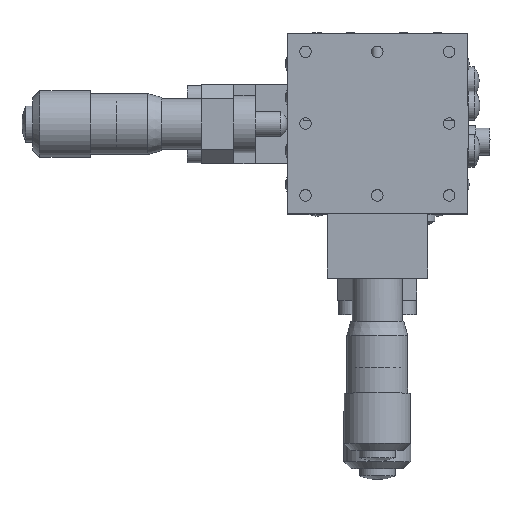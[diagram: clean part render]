
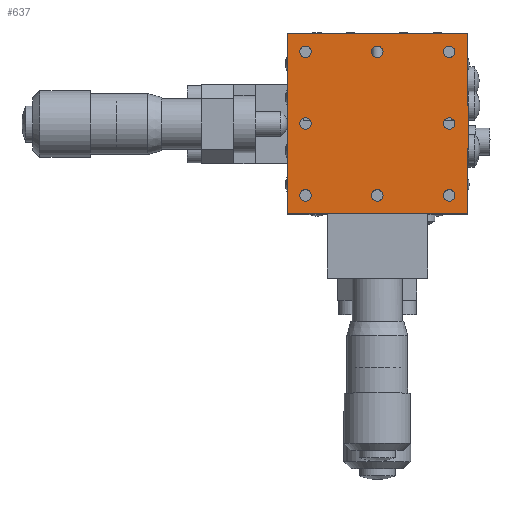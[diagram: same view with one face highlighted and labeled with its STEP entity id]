
A CAD part, top view. The second image highlights one B-rep face of the part: STEP entity #637.
In plain terms, the highlighted planar face has unit normal (0, 0, 1).
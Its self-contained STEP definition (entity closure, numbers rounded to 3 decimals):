
#637 = ADVANCED_FACE( '', ( #1473, #1474, #1475, #1476, #1477, #1478, #1479, #1480, #1481 ), #1482, .T. );
#1473 = FACE_BOUND( '', #3059, .T. );
#1474 = FACE_BOUND( '', #3060, .T. );
#1475 = FACE_BOUND( '', #3061, .T. );
#1476 = FACE_BOUND( '', #3062, .T. );
#1477 = FACE_BOUND( '', #3063, .T. );
#1478 = FACE_BOUND( '', #3064, .T. );
#1479 = FACE_BOUND( '', #3065, .T. );
#1480 = FACE_BOUND( '', #3066, .T. );
#1481 = FACE_OUTER_BOUND( '', #3067, .T. );
#1482 = PLANE( '', #3068 );
#3059 = EDGE_LOOP( '', ( #5238 ) );
#3060 = EDGE_LOOP( '', ( #5239 ) );
#3061 = EDGE_LOOP( '', ( #5240 ) );
#3062 = EDGE_LOOP( '', ( #5241 ) );
#3063 = EDGE_LOOP( '', ( #5242 ) );
#3064 = EDGE_LOOP( '', ( #5243 ) );
#3065 = EDGE_LOOP( '', ( #5244 ) );
#3066 = EDGE_LOOP( '', ( #5245 ) );
#3067 = EDGE_LOOP( '', ( #5246, #5247, #5248, #5249, #5250, #5251, #5252, #5253 ) );
#3068 = AXIS2_PLACEMENT_3D( '', #5254, #5255, #5256 );
#5238 = ORIENTED_EDGE( '', *, *, #9094, .T. );
#5239 = ORIENTED_EDGE( '', *, *, #9095, .T. );
#5240 = ORIENTED_EDGE( '', *, *, #9096, .T. );
#5241 = ORIENTED_EDGE( '', *, *, #9097, .T. );
#5242 = ORIENTED_EDGE( '', *, *, #9098, .T. );
#5243 = ORIENTED_EDGE( '', *, *, #9099, .T. );
#5244 = ORIENTED_EDGE( '', *, *, #9100, .T. );
#5245 = ORIENTED_EDGE( '', *, *, #9101, .T. );
#5246 = ORIENTED_EDGE( '', *, *, #9102, .F. );
#5247 = ORIENTED_EDGE( '', *, *, #9103, .F. );
#5248 = ORIENTED_EDGE( '', *, *, #9104, .F. );
#5249 = ORIENTED_EDGE( '', *, *, #9105, .T. );
#5250 = ORIENTED_EDGE( '', *, *, #9106, .T. );
#5251 = ORIENTED_EDGE( '', *, *, #9107, .F. );
#5252 = ORIENTED_EDGE( '', *, *, #9108, .F. );
#5253 = ORIENTED_EDGE( '', *, *, #9109, .F. );
#5254 = CARTESIAN_POINT( '', ( 0., 0., 61.75 ) );
#5255 = DIRECTION( '', ( 0., 0., 1. ) );
#5256 = DIRECTION( '', ( 1., 0., 0. ) );
#9094 = EDGE_CURVE( '', #10603, #10603, #10604, .T. );
#9095 = EDGE_CURVE( '', #10605, #10605, #10606, .T. );
#9096 = EDGE_CURVE( '', #10607, #10607, #10608, .T. );
#9097 = EDGE_CURVE( '', #10609, #10609, #10610, .T. );
#9098 = EDGE_CURVE( '', #10611, #10611, #10612, .T. );
#9099 = EDGE_CURVE( '', #10613, #10613, #10614, .T. );
#9100 = EDGE_CURVE( '', #10615, #10615, #10616, .T. );
#9101 = EDGE_CURVE( '', #10617, #10617, #10618, .T. );
#9102 = EDGE_CURVE( '', #10619, #10620, #10621, .T. );
#9103 = EDGE_CURVE( '', #10622, #10619, #10623, .T. );
#9104 = EDGE_CURVE( '', #10624, #10622, #10625, .T. );
#9105 = EDGE_CURVE( '', #10624, #10626, #10627, .T. );
#9106 = EDGE_CURVE( '', #10626, #10628, #10629, .T. );
#9107 = EDGE_CURVE( '', #10630, #10628, #10631, .T. );
#9108 = EDGE_CURVE( '', #10632, #10630, #10633, .T. );
#9109 = EDGE_CURVE( '', #10620, #10632, #10634, .T. );
#10603 = VERTEX_POINT( '', #13105 );
#10604 = CIRCLE( '', #13106, 0.8 );
#10605 = VERTEX_POINT( '', #13107 );
#10606 = CIRCLE( '', #13108, 0.8 );
#10607 = VERTEX_POINT( '', #13109 );
#10608 = CIRCLE( '', #13110, 0.8 );
#10609 = VERTEX_POINT( '', #13111 );
#10610 = CIRCLE( '', #13112, 0.8 );
#10611 = VERTEX_POINT( '', #13113 );
#10612 = CIRCLE( '', #13114, 0.8 );
#10613 = VERTEX_POINT( '', #13115 );
#10614 = CIRCLE( '', #13116, 0.8 );
#10615 = VERTEX_POINT( '', #13117 );
#10616 = CIRCLE( '', #13118, 0.8 );
#10617 = VERTEX_POINT( '', #13119 );
#10618 = CIRCLE( '', #13120, 0.8 );
#10619 = VERTEX_POINT( '', #13121 );
#10620 = VERTEX_POINT( '', #13122 );
#10621 = LINE( '', #13123, #13124 );
#10622 = VERTEX_POINT( '', #13125 );
#10623 = LINE( '', #13126, #13127 );
#10624 = VERTEX_POINT( '', #13128 );
#10625 = LINE( '', #13129, #13130 );
#10626 = VERTEX_POINT( '', #13131 );
#10627 = LINE( '', #13132, #13133 );
#10628 = VERTEX_POINT( '', #13134 );
#10629 = LINE( '', #13135, #13136 );
#10630 = VERTEX_POINT( '', #13137 );
#10631 = LINE( '', #13138, #13139 );
#10632 = VERTEX_POINT( '', #13140 );
#10633 = LINE( '', #13141, #13142 );
#10634 = LINE( '', #13143, #13144 );
#13105 = CARTESIAN_POINT( '', ( 0.8, -10., 61.75 ) );
#13106 = AXIS2_PLACEMENT_3D( '', #16252, #16253, #16254 );
#13107 = CARTESIAN_POINT( '', ( -9.2, -10., 61.75 ) );
#13108 = AXIS2_PLACEMENT_3D( '', #16255, #16256, #16257 );
#13109 = CARTESIAN_POINT( '', ( -9.2, 0., 61.75 ) );
#13110 = AXIS2_PLACEMENT_3D( '', #16258, #16259, #16260 );
#13111 = CARTESIAN_POINT( '', ( -9.2, 10., 61.75 ) );
#13112 = AXIS2_PLACEMENT_3D( '', #16261, #16262, #16263 );
#13113 = CARTESIAN_POINT( '', ( 0.8, 10., 61.75 ) );
#13114 = AXIS2_PLACEMENT_3D( '', #16264, #16265, #16266 );
#13115 = CARTESIAN_POINT( '', ( 10.8, 10., 61.75 ) );
#13116 = AXIS2_PLACEMENT_3D( '', #16267, #16268, #16269 );
#13117 = CARTESIAN_POINT( '', ( 10.8, 0., 61.75 ) );
#13118 = AXIS2_PLACEMENT_3D( '', #16270, #16271, #16272 );
#13119 = CARTESIAN_POINT( '', ( 10.8, -10., 61.75 ) );
#13120 = AXIS2_PLACEMENT_3D( '', #16273, #16274, #16275 );
#13121 = CARTESIAN_POINT( '', ( 12.5, -12.5, 61.75 ) );
#13122 = CARTESIAN_POINT( '', ( -12.5, -12.5, 61.75 ) );
#13123 = CARTESIAN_POINT( '', ( 0., -12.5, 61.75 ) );
#13124 = VECTOR( '', #16276, 1000. );
#13125 = CARTESIAN_POINT( '', ( 12.5, -3.5, 61.75 ) );
#13126 = CARTESIAN_POINT( '', ( 12.5, 0., 61.75 ) );
#13127 = VECTOR( '', #16277, 1000. );
#13128 = CARTESIAN_POINT( '', ( 12.7, -3.5, 61.75 ) );
#13129 = CARTESIAN_POINT( '', ( 12.7, -3.5, 61.75 ) );
#13130 = VECTOR( '', #16278, 1000. );
#13131 = CARTESIAN_POINT( '', ( 12.7, 2.5, 61.75 ) );
#13132 = CARTESIAN_POINT( '', ( 12.7, -3.5, 61.75 ) );
#13133 = VECTOR( '', #16279, 1000. );
#13134 = CARTESIAN_POINT( '', ( 12.5, 2.5, 61.75 ) );
#13135 = CARTESIAN_POINT( '', ( 12.7, 2.5, 61.75 ) );
#13136 = VECTOR( '', #16280, 1000. );
#13137 = CARTESIAN_POINT( '', ( 12.5, 12.5, 61.75 ) );
#13138 = CARTESIAN_POINT( '', ( 12.5, 0., 61.75 ) );
#13139 = VECTOR( '', #16281, 1000. );
#13140 = CARTESIAN_POINT( '', ( -12.5, 12.5, 61.75 ) );
#13141 = CARTESIAN_POINT( '', ( 0., 12.5, 61.75 ) );
#13142 = VECTOR( '', #16282, 1000. );
#13143 = CARTESIAN_POINT( '', ( -12.5, 0., 61.75 ) );
#13144 = VECTOR( '', #16283, 1000. );
#16252 = CARTESIAN_POINT( '', ( 0., -10., 61.75 ) );
#16253 = DIRECTION( '', ( 0., 0., -1. ) );
#16254 = DIRECTION( '', ( 1., 0., 0. ) );
#16255 = CARTESIAN_POINT( '', ( -10., -10., 61.75 ) );
#16256 = DIRECTION( '', ( 0., 0., -1. ) );
#16257 = DIRECTION( '', ( 1., 0., 0. ) );
#16258 = CARTESIAN_POINT( '', ( -10., 0., 61.75 ) );
#16259 = DIRECTION( '', ( 0., 0., -1. ) );
#16260 = DIRECTION( '', ( 1., 0., 0. ) );
#16261 = CARTESIAN_POINT( '', ( -10., 10., 61.75 ) );
#16262 = DIRECTION( '', ( 0., 0., -1. ) );
#16263 = DIRECTION( '', ( 1., 0., 0. ) );
#16264 = CARTESIAN_POINT( '', ( 0., 10., 61.75 ) );
#16265 = DIRECTION( '', ( 0., 0., -1. ) );
#16266 = DIRECTION( '', ( 1., 0., 0. ) );
#16267 = CARTESIAN_POINT( '', ( 10., 10., 61.75 ) );
#16268 = DIRECTION( '', ( 0., 0., -1. ) );
#16269 = DIRECTION( '', ( 1., 0., 0. ) );
#16270 = CARTESIAN_POINT( '', ( 10., 0., 61.75 ) );
#16271 = DIRECTION( '', ( 0., 0., -1. ) );
#16272 = DIRECTION( '', ( 1., 0., 0. ) );
#16273 = CARTESIAN_POINT( '', ( 10., -10., 61.75 ) );
#16274 = DIRECTION( '', ( 0., 0., -1. ) );
#16275 = DIRECTION( '', ( 1., 0., 0. ) );
#16276 = DIRECTION( '', ( -1., 0., 0. ) );
#16277 = DIRECTION( '', ( 0., -1., 0. ) );
#16278 = DIRECTION( '', ( -1., 0., 0. ) );
#16279 = DIRECTION( '', ( 0., 1., 0. ) );
#16280 = DIRECTION( '', ( -1., 0., 0. ) );
#16281 = DIRECTION( '', ( 0., -1., 0. ) );
#16282 = DIRECTION( '', ( 1., 0., 0. ) );
#16283 = DIRECTION( '', ( 0., 1., 0. ) );
